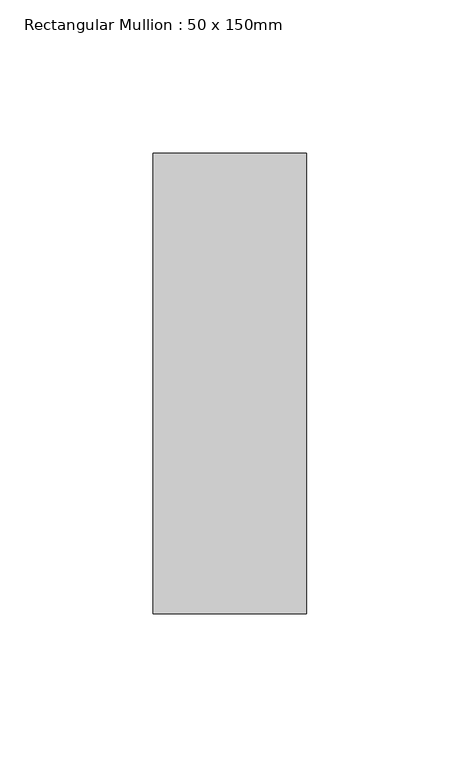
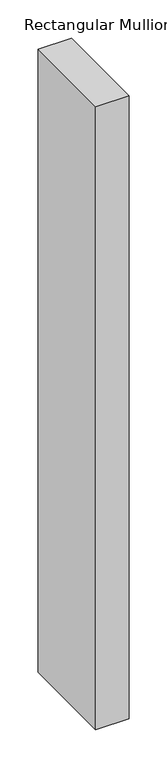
"""IFC4 building model written with IfcOpenShell, lengths in millimetres: member geometry, Rectangular Mullion : 50 x 150mm."""

from ifc_helpers import new_model, si_unit, frame, origin, place, context, project, spatial, polyline, outline, extrude, source, transform, mapped, element, save


def rectangular_mullion_50_x_150mm_e14efa60(model_context):
    return source(origin(), model_context, "Body", "SweptSolid", [
        extrude(outline(polyline([(0.0, 75.0), (0.0, -75.0), (-50.0, -75.0), (-50.0, 75.0), (0.0, 75.0)])), frame((0.0, 0.0, -991.6666667), z_axis=(0.0, 0.0, 1.0), x_axis=(1.0, 0.0, 0.0)), (0.0, 0.0, 1.0), 991.6666667),
    ])


if __name__ == "__main__":
    model = new_model("IFC4")
    model_context = context("Model", 3, world=origin())
    ifc_project = project(units=[si_unit("LENGTHUNIT", "METRE", prefix="MILLI")], contexts=[model_context])
    site = spatial("IfcSite", under=ifc_project)
    building = spatial("IfcBuilding", under=site)
    placement = place(None, origin())
    rectangular_mullion_50_x_150mm_shape = rectangular_mullion_50_x_150mm_e14efa60(model_context)
    element("IfcMember", 1, ObjectType="Rectangular Mullion : 50 x 150mm", at=placement, inside=building, context=model_context, shape_type="MappedRepresentation", body=[
        mapped(rectangular_mullion_50_x_150mm_shape, transform((0.0, 0.0, 0.0), x_axis=(1.0, 0.0, 0.0), y_axis=(0.0, 1.0, 0.0), z_axis=(0.0, 0.0, 1.0))),
    ])
    save(model, "model.ifc")
